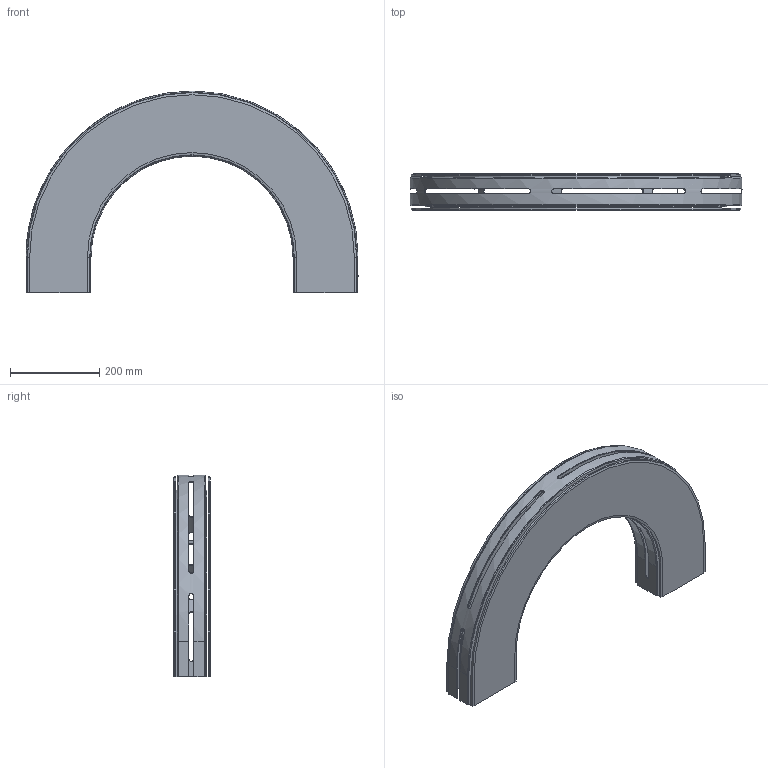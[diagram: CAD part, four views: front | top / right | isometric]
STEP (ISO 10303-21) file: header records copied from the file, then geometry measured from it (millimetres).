
FILE_DESCRIPTION((''),'2;1');
FILE_NAME('C:\Vault Klient\Projekt\Koncept konstruktion\Serie 540 Balk\540-5220.stp','2010-11-24T13:25:59',('Mathias'),(''),'Autodesk Inventor 2011','Autodesk Inventor 2011','');
FILE_SCHEMA(('AUTOMOTIVE_DESIGN { 1 0 10303 214 1 1 1 1 }'));
Length unit declared in the file: millimetre
Products named in the file (1): 540-5220
Bounding box: 746 x 82 x 453 mm (x, y, z)
Volume: 2488011 mm3; surface area: 1279456.1 mm2
Topology: 2 solids, 2 shells, 179 faces, 506 edges, 332 vertices
Faces by surface type: plane 115, cylinder 28, bspline 26, cone 6, torus 4
Entity records: 6558 total; most frequent: CARTESIAN_POINT 1896, ORIENTED_EDGE 1012, DIRECTION 862, EDGE_CURVE 506, VECTOR 354, LINE 354, VERTEX_POINT 332, AXIS2_PLACEMENT_3D 254
